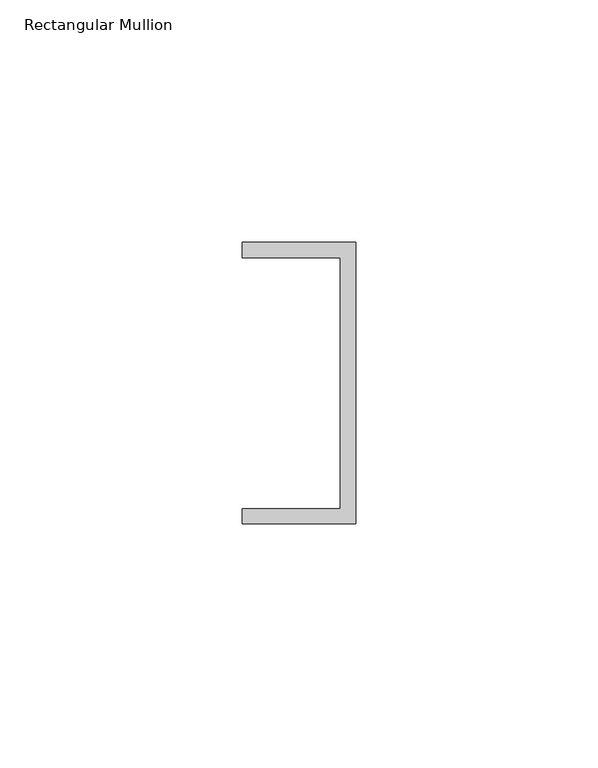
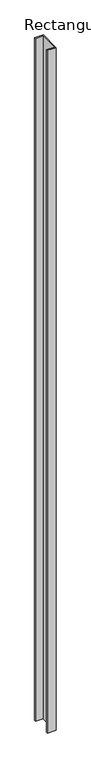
"""IFC4 building model written with IfcOpenShell, lengths in millimetres: member geometry, Rectangular Mullion : Frame-Teknion-Altos-Base_Channel."""

from ifc_helpers import new_model, si_unit, frame, origin, place, context, project, spatial, polyline, outline, extrude, source, transform, mapped, element, save


def rectangular_mullion_acca460e(model_context):
    return source(origin(), model_context, "Body", "SweptSolid", [
        extrude(outline(polyline([(0.0, 29.0214844), (0.0, -29.0214844), (-23.3164063, -29.0214844), (-23.3164063, -25.8464844), (-3.175, -25.8464844), (-3.175, 25.8464844), (-23.3164063, 25.8464844), (-23.3164063, 29.0214844), (0.0, 29.0214844)])), frame((0.0, 0.0, -1902.4203125), z_axis=(0.0, 0.0, 1.0), x_axis=(1.0, 0.0, 0.0)), (0.0, 0.0, 1.0), 1902.4203125),
    ])


if __name__ == "__main__":
    model = new_model("IFC4")
    model_context = context("Model", 3, world=origin())
    ifc_project = project(units=[si_unit("LENGTHUNIT", "METRE", prefix="MILLI")], contexts=[model_context])
    site = spatial("IfcSite", under=ifc_project)
    building = spatial("IfcBuilding", under=site)
    placement = place(None, origin())
    rectangular_mullion_shape = rectangular_mullion_acca460e(model_context)
    element("IfcMember", 1, ObjectType="Rectangular Mullion : Frame-Teknion-Altos-Base_Channel", at=placement, inside=building, context=model_context, shape_type="MappedRepresentation", body=[
        mapped(rectangular_mullion_shape, transform((0.0, 0.0, 0.0), x_axis=(1.0, 0.0, 0.0), y_axis=(0.0, 1.0, 0.0), z_axis=(0.0, 0.0, 1.0))),
    ])
    save(model, "model.ifc")
